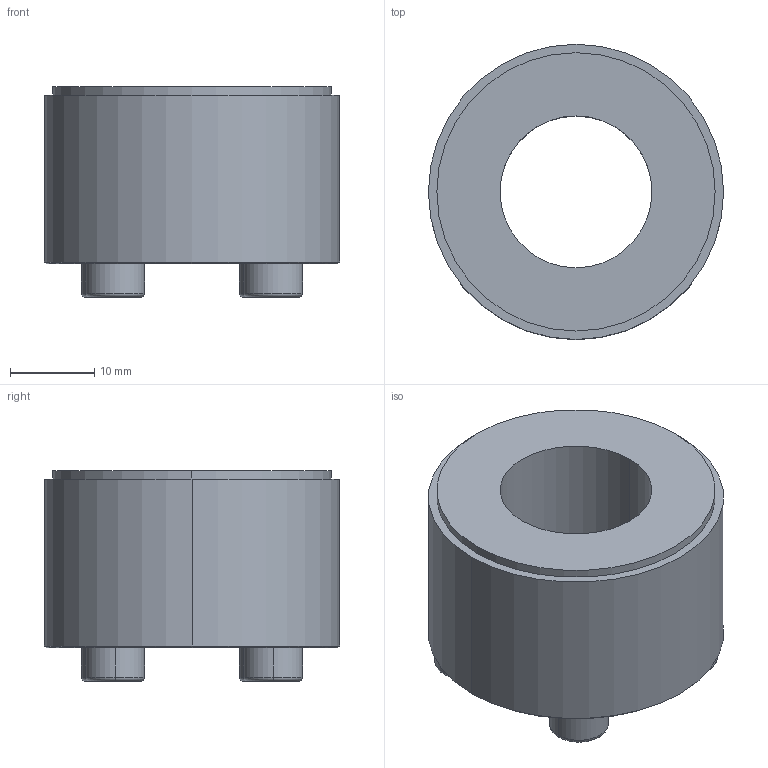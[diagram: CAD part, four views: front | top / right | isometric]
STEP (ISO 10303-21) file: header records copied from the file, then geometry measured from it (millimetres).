
FILE_DESCRIPTION (( 'STEP AP203' ), '1' );
FILE_NAME ('PL-B 18-35.STEP', '2021-10-22T07:45:55', ( '' ), ( '' ), 'SwSTEP 2.0', 'SolidWorks 2018', '' );
FILE_SCHEMA (( 'CONFIG_CONTROL_DESIGN' ));
Length unit declared in the file: millimetre
Products named in the file (1): PL-B 18-35
Bounding box: 35 x 35 x 25 mm (x, y, z)
Volume: 15299.2 mm3; surface area: 5301.8 mm2
Topology: 1 solids, 1 shells, 61 faces, 138 edges, 88 vertices
Faces by surface type: plane 35, cylinder 14, torus 8, cone 4
Entity records: 1785 total; most frequent: DIRECTION 310, CARTESIAN_POINT 288, ORIENTED_EDGE 276, EDGE_CURVE 138, AXIS2_PLACEMENT_3D 110, VECTOR 90, LINE 90, VERTEX_POINT 88
